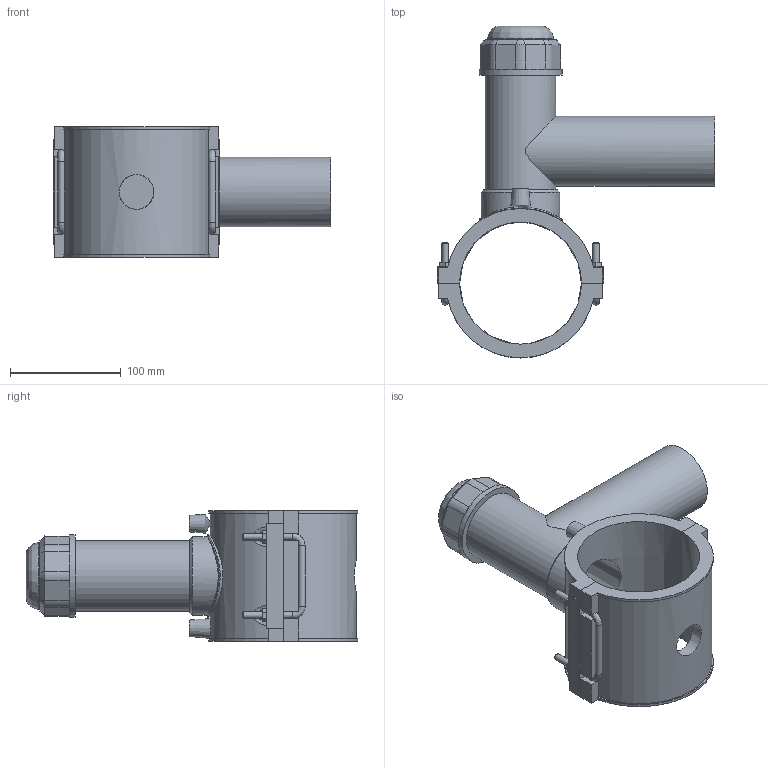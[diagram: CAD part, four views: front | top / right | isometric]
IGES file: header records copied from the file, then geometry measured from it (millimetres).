
Global section: file name: 496304110063.ipt; native system: Autodesk Inventor 2015; preprocessor: unknown; author: KIM; date: 20190124.130855; units: millimetre
Bounding box: 250 x 299.32 x 118 mm (x, y, z)
Volume: 992244.3 mm3; surface area: 231646.5 mm2
Topology: 2 solids, 2 shells, 185 faces, 470 edges, 306 vertices
Faces by surface type: plane 111, cylinder 34, revolution 20, cone 15, bspline 5
Full cylindrical faces by diameter (mm): 4 x2, 6 x10, 59.84 x1, 63 x1, 63.58 x1, 71.06 x1, 74.8 x2
